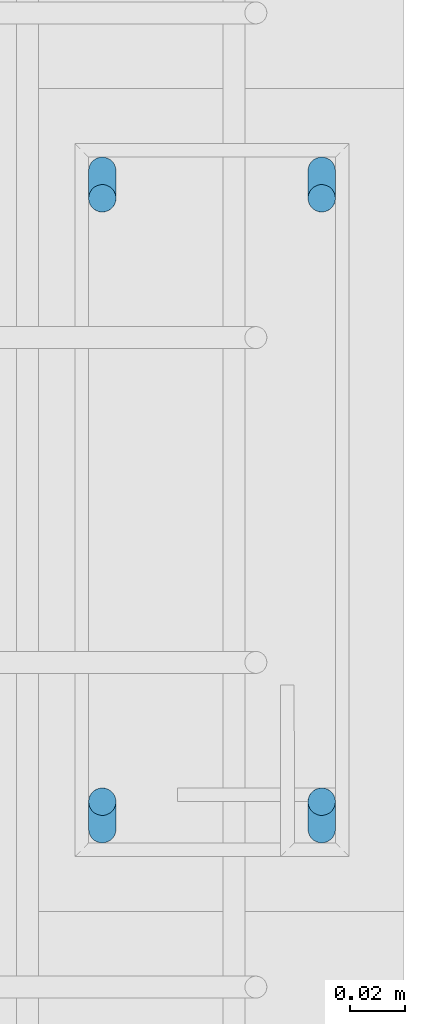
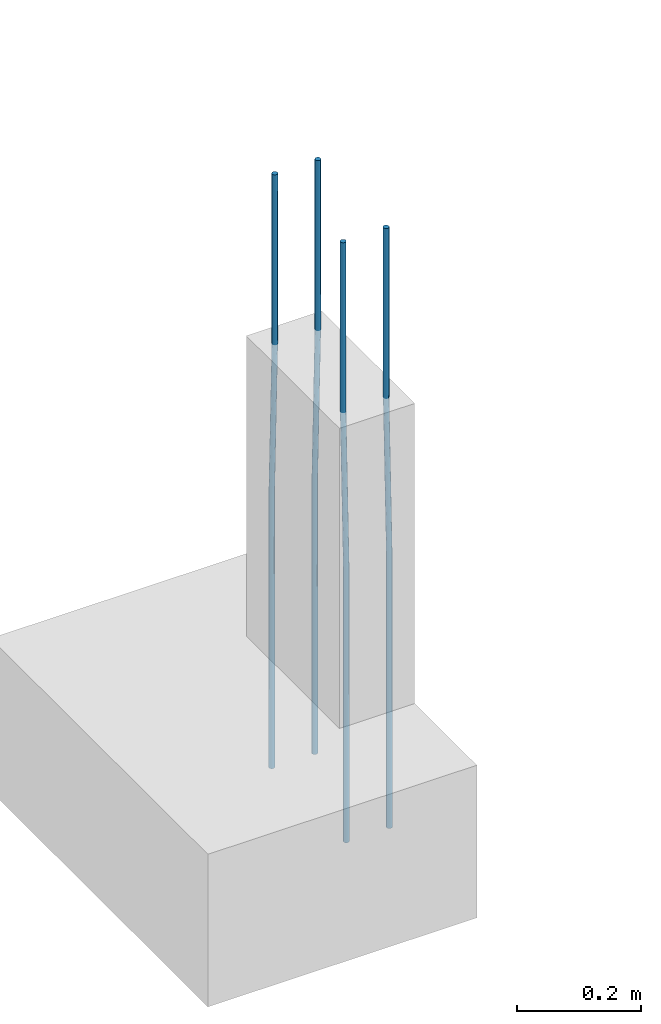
# One storey, part 65 of 119: 4 reinforcing bars.
"""IFC4 building model written with IfcOpenShell, lengths in centimetres."""

from ifc_helpers import new_model, entity, si_unit, derived_unit, frame, origin_with_axes, place, context, project, spatial, element, save


model = new_model("IFC4")

# Units and contexts
model_context = context("Model", 3, precision=1e-05, world=origin_with_axes(), identifier="Body")
ifc_project = project(units=[si_unit("LENGTHUNIT", "METRE", prefix="CENTI"), si_unit("VOLUMEUNIT", "CUBIC_METRE"), si_unit("AREAUNIT", "SQUARE_METRE"), si_unit("POWERUNIT", "WATT"), si_unit("LUMINOUSFLUXUNIT", "LUMEN"), si_unit("ELECTRICCURRENTUNIT", "AMPERE"), si_unit("PRESSUREUNIT", "PASCAL", prefix="KILO"), si_unit("MASSUNIT", "GRAM", prefix="KILO"), si_unit("PLANEANGLEUNIT", "RADIAN"), derived_unit("VOLUMETRICFLOWRATEUNIT", [(si_unit("LENGTHUNIT", "METRE"), 3), (si_unit("TIMEUNIT", "SECOND"), -1)])], contexts=[model_context])

# Site, building, storey
site_placement = place(None, frame((-4000.0, 0.0, 0.0), z_axis=(0.0, 0.0, 1.0), x_axis=(1.0, 0.0, 0.0)))
site = spatial("IfcSite", under=ifc_project, at=site_placement, Name="PADRÃO")
building_placement = place(site_placement, frame((0.0, 0.0, -14.0)))
building = spatial("IfcBuilding", under=site, at=building_placement, Name="CRECHE PRÉ-ESCOLA TIPO 2")
storey_placement = place(building_placement, origin_with_axes())
storey = spatial("IfcBuildingStorey", under=building, at=storey_placement, Name="FUNDAÇÃO", CompositionType="ELEMENT", Elevation=-14.0)

# Reinforcing bars
reinforcing_bar_1_placement = place(storey_placement, frame((3996.0, 3843.5, 33.3573001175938), z_axis=(0.0, 0.0, 1.0), x_axis=(1.0, 0.0, 0.0)))
element("IfcReinforcingBar", 1, at=reinforcing_bar_1_placement, inside=storey, Name="P30 - Longitudinal", BarLength=0.0, CrossSectionArea=7.853981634e-05, NominalDiameter=1.0, PredefinedType="MAIN", context=model_context, shape_type="AdvancedSweptSolid", body=[
    entity("IfcSweptDiskSolid", entity("IfcCompositeCurve", [entity("IfcCompositeCurveSegment", "CONTINUOUS", True, entity("IfcPolyline", [entity("IfcCartesianPoint", [0.0, -0.5, -117.357300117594]), entity("IfcCartesianPoint", [0.0, -0.5, -63.3573001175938])])), entity("IfcCompositeCurveSegment", "CONTINUOUS", True, entity("IfcPolyline", [entity("IfcCartesianPoint", [0.0, -0.5, -63.3573001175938]), entity("IfcCartesianPoint", [0.0, 0.5, -33.3573001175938])])), entity("IfcCompositeCurveSegment", "CONTINUOUS", True, entity("IfcPolyline", [entity("IfcCartesianPoint", [0.0, 0.5, -33.3573001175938]), entity("IfcCartesianPoint", [0.0, 0.5, 0.0])]))], False), 0.5),
])
for number, where, z_axis, x_axis, name in (
    (2, (3988.0, 3866.5, 33.3573001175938), (0.0, 0.0, 1.0), (1.0, 0.0, 0.0), "P30 - Longitudinal"),
    (3, (3996.0, 3866.5, 33.3573001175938), (0.0, 0.0, 1.0), (1.0, 0.0, 0.0), "P30 - Longitudinal"),
):
    element("IfcReinforcingBar", number, at=place(storey_placement, frame(where, z_axis=z_axis, x_axis=x_axis)), inside=storey, Name=name, BarLength=0.0, CrossSectionArea=7.853981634e-05, NominalDiameter=1.0, PredefinedType="MAIN", context=model_context, shape_type="AdvancedSweptSolid", body=[
        entity("IfcSweptDiskSolid", entity("IfcCompositeCurve", [entity("IfcCompositeCurveSegment", "CONTINUOUS", True, entity("IfcPolyline", [entity("IfcCartesianPoint", [0.0, 0.5, -117.357300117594]), entity("IfcCartesianPoint", [0.0, 0.5, -63.3573001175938])])), entity("IfcCompositeCurveSegment", "CONTINUOUS", True, entity("IfcPolyline", [entity("IfcCartesianPoint", [0.0, 0.5, -63.3573001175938]), entity("IfcCartesianPoint", [0.0, -0.5, -33.3573001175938])])), entity("IfcCompositeCurveSegment", "CONTINUOUS", True, entity("IfcPolyline", [entity("IfcCartesianPoint", [0.0, -0.5, -33.3573001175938]), entity("IfcCartesianPoint", [0.0, -0.5, 0.0])]))], False), 0.5),
    ])
reinforcing_bar_2_placement = place(storey_placement, frame((3988.0, 3843.5, 33.3573001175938), z_axis=(0.0, 0.0, 1.0), x_axis=(1.0, 0.0, 0.0)))
element("IfcReinforcingBar", 4, at=reinforcing_bar_2_placement, inside=storey, Name="P30 - Longitudinal", BarLength=0.0, CrossSectionArea=7.853981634e-05, NominalDiameter=1.0, PredefinedType="MAIN", context=model_context, shape_type="AdvancedSweptSolid", body=[
    entity("IfcSweptDiskSolid", entity("IfcCompositeCurve", [entity("IfcCompositeCurveSegment", "CONTINUOUS", True, entity("IfcPolyline", [entity("IfcCartesianPoint", [0.0, -0.5, -117.357300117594]), entity("IfcCartesianPoint", [0.0, -0.5, -63.3573001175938])])), entity("IfcCompositeCurveSegment", "CONTINUOUS", True, entity("IfcPolyline", [entity("IfcCartesianPoint", [0.0, -0.5, -63.3573001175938]), entity("IfcCartesianPoint", [0.0, 0.5, -33.3573001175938])])), entity("IfcCompositeCurveSegment", "CONTINUOUS", True, entity("IfcPolyline", [entity("IfcCartesianPoint", [0.0, 0.5, -33.3573001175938]), entity("IfcCartesianPoint", [0.0, 0.5, 0.0])]))], False), 0.5),
])

save(model, "model.ifc")
